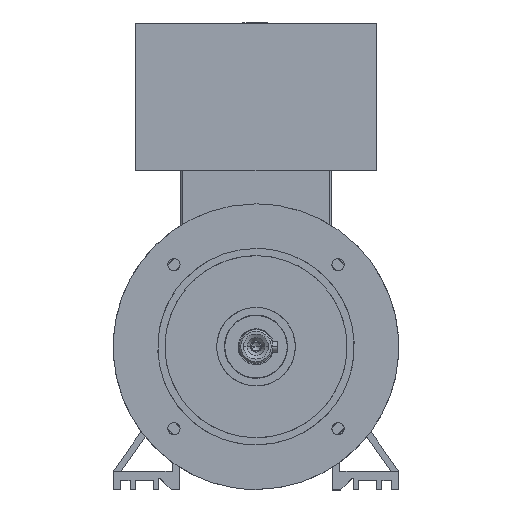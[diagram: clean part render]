
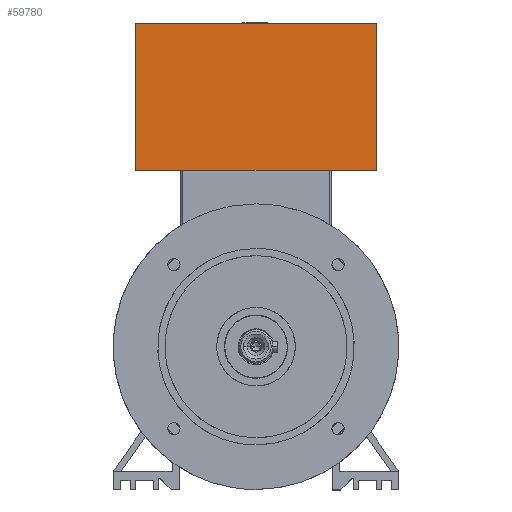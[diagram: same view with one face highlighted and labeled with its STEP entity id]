
A CAD part, top view. The second image highlights one B-rep face of the part: STEP entity #59780.
In plain terms, the highlighted planar face has unit normal (0, 0, 1).
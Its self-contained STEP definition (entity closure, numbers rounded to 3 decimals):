
#1902 = LINE ( 'NONE', #25064, #16567 ) ;
#2857 = EDGE_LOOP ( 'NONE', ( #56043, #21134, #58364, #52115 ) ) ;
#9860 = DIRECTION ( 'NONE',  ( 1., 0., 0. ) ) ;
#10919 = LINE ( 'NONE', #28435, #37204 ) ;
#10977 = LINE ( 'NONE', #22397, #29577 ) ;
#12435 = EDGE_CURVE ( 'NONE', #26884, #15333, #58147, .T. ) ;
#12921 = EDGE_CURVE ( 'NONE', #57531, #15333, #10977, .T. ) ;
#13073 = EDGE_CURVE ( 'NONE', #47509, #57531, #10919, .T. ) ;
#15333 = VERTEX_POINT ( 'NONE', #50076 ) ;
#15467 = PLANE ( 'NONE',  #54571 ) ;
#16567 = VECTOR ( 'NONE', #59369, 1000. ) ;
#20028 = DIRECTION ( 'NONE',  ( 0., 0., 1. ) ) ;
#21134 = ORIENTED_EDGE ( 'NONE', *, *, #12435, .T. ) ;
#22317 = DIRECTION ( 'NONE',  ( 1., 0., 0. ) ) ;
#22397 = CARTESIAN_POINT ( 'NONE',  ( 67.5, -91.919, 67.5 ) ) ;
#23211 = DIRECTION ( 'NONE',  ( 1., 0., 0. ) ) ;
#24575 = CARTESIAN_POINT ( 'NONE',  ( -67.5, -91.919, 67.5 ) ) ;
#24582 = CARTESIAN_POINT ( 'NONE',  ( 67.5, 181., 67.5 ) ) ;
#25064 = CARTESIAN_POINT ( 'NONE',  ( -67.5, -91.919, 67.5 ) ) ;
#26884 = VERTEX_POINT ( 'NONE', #51383 ) ;
#28435 = CARTESIAN_POINT ( 'NONE',  ( -67.5, 181., 67.5 ) ) ;
#29577 = VECTOR ( 'NONE', #57097, 1000. ) ;
#37204 = VECTOR ( 'NONE', #23211, 1000. ) ;
#39331 = FACE_OUTER_BOUND ( 'NONE', #2857, .T. ) ;
#45002 = EDGE_CURVE ( 'NONE', #26884, #47509, #1902, .T. ) ;
#46525 = CARTESIAN_POINT ( 'NONE',  ( -67.5, 181., 67.5 ) ) ;
#47509 = VERTEX_POINT ( 'NONE', #46525 ) ;
#50076 = CARTESIAN_POINT ( 'NONE',  ( 67.5, 99., 67.5 ) ) ;
#51383 = CARTESIAN_POINT ( 'NONE',  ( -67.5, 99., 67.5 ) ) ;
#52115 = ORIENTED_EDGE ( 'NONE', *, *, #13073, .F. ) ;
#53461 = VECTOR ( 'NONE', #22317, 1000. ) ;
#54571 = AXIS2_PLACEMENT_3D ( 'NONE', #24575, #20028, #9860 ) ;
#56043 = ORIENTED_EDGE ( 'NONE', *, *, #45002, .F. ) ;
#57097 = DIRECTION ( 'NONE',  ( 0., -1., 0. ) ) ;
#57219 = CARTESIAN_POINT ( 'NONE',  ( 0., 99., 67.5 ) ) ;
#57531 = VERTEX_POINT ( 'NONE', #24582 ) ;
#58147 = LINE ( 'NONE', #57219, #53461 ) ;
#58364 = ORIENTED_EDGE ( 'NONE', *, *, #12921, .F. ) ;
#59369 = DIRECTION ( 'NONE',  ( 0., 1., 0. ) ) ;
#59780 = ADVANCED_FACE ( 'NONE', ( #39331 ), #15467, .T. ) ;
